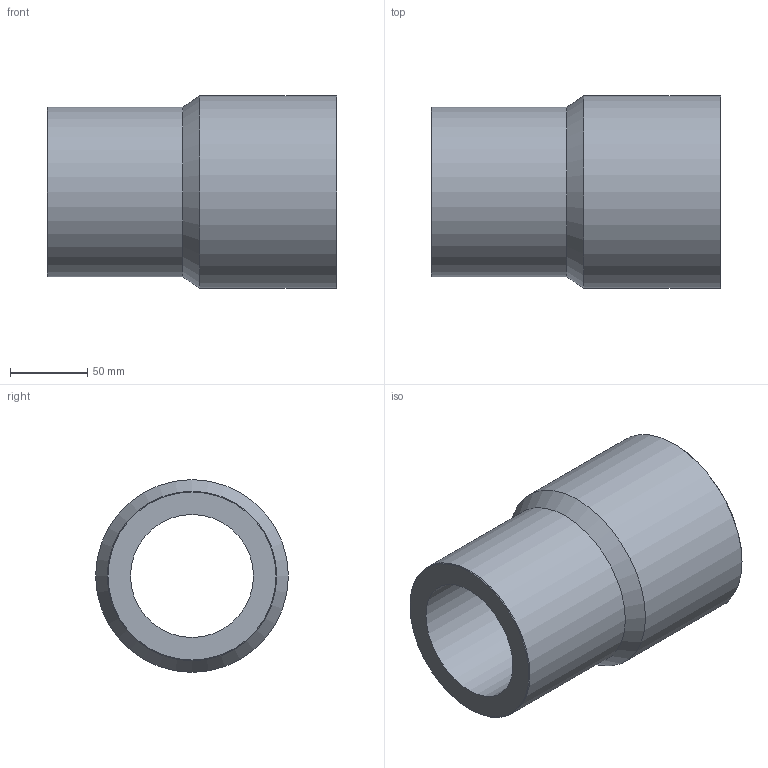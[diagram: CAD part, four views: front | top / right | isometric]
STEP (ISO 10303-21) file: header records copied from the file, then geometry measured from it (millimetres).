
FILE_DESCRIPTION(/* description */ ('Unknown'),/* implementation_level */ '2;1');
FILE_NAME(/* name */ 'RP125110H',/* time_stamp */ '2021-09-16T12:22:53+02:00',/* author */ ('Unknown'),/* organization */ ('Unknown'),/* preprocessor_version */ 'ST-DEVELOPER v16.7',/* originating_system */ 'Solid Edge',/* authorisation */ 'Unknown');
FILE_SCHEMA (('AUTOMOTIVE_DESIGN {1 0 10303 214 3 1 1}'));
Length unit declared in the file: millimetre
Products named in the file (1): RP125110H
Bounding box: 188 x 125 x 125 mm (x, y, z)
Volume: 978018.8 mm3; surface area: 130907.9 mm2
Topology: 1 solids, 1 shells, 10 faces, 19 edges, 11 vertices
Faces by surface type: cylinder 4, cone 4, plane 2
Full cylindrical faces by diameter (mm): 79.8 x1, 90.8 x1, 110 x1, 125 x1
Entity records: 238 total; most frequent: DIRECTION 42, CARTESIAN_POINT 31, AXIS2_PLACEMENT_3D 21, ORIENTED_EDGE 20, EDGE_LOOP 20, FACE_BOUND 20, EDGE_CURVE 10, VERTEX_POINT 10
